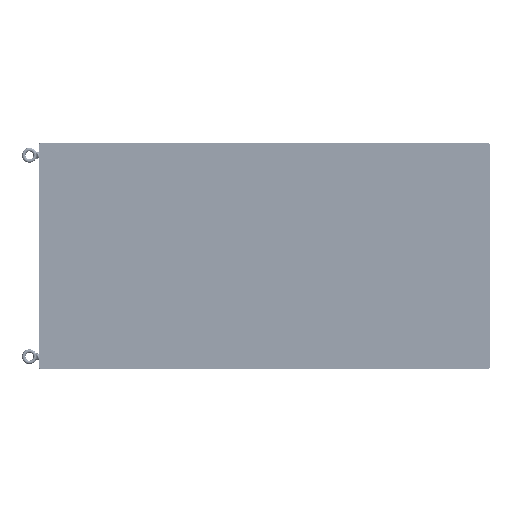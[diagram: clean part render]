
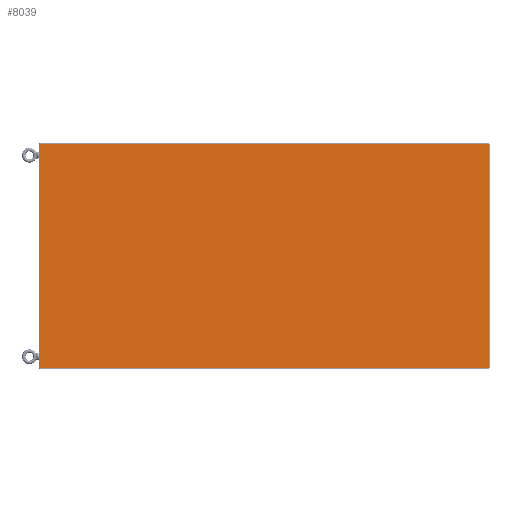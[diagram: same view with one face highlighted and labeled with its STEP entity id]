
A CAD part, front view. The second image highlights one B-rep face of the part: STEP entity #8039.
In plain terms, the highlighted planar face has unit normal (0, -1, 0).
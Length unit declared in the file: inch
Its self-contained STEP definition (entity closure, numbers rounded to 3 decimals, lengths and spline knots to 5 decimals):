
#7808=CARTESIAN_POINT('',(-39.251,0.,-19.566));
#7809=DIRECTION('',(0.,-1.,0.));
#7810=DIRECTION('',(-1.,0.,0.));
#7811=AXIS2_PLACEMENT_3D('',#7808,#7809,#7810);
#7816=DIRECTION('',(0.,0.,-1.));
#7817=VECTOR('',#7816,39.132);
#7818=CARTESIAN_POINT('',(-39.266,0.,19.566));
#7819=LINE('',#7818,#7817);
#7823=CARTESIAN_POINT('',(-39.251,0.,19.566));
#7824=DIRECTION('',(0.,-1.,0.));
#7825=DIRECTION('',(0.,0.,1.));
#7826=AXIS2_PLACEMENT_3D('',#7823,#7824,#7825);
#7831=CARTESIAN_POINT('',(39.251,0.,19.566));
#7832=DIRECTION('',(0.,-1.,0.));
#7833=DIRECTION('',(1.,0.,0.));
#7834=AXIS2_PLACEMENT_3D('',#7831,#7832,#7833);
#7839=CARTESIAN_POINT('',(39.251,0.,-19.566));
#7840=DIRECTION('',(0.,-1.,0.));
#7841=DIRECTION('',(0.,0.,-1.));
#7842=AXIS2_PLACEMENT_3D('',#7839,#7840,#7841);
#7854=DIRECTION('',(1.,0.,0.));
#7855=VECTOR('',#7854,78.502);
#7856=CARTESIAN_POINT('',(-39.251,0.,-19.581));
#7857=LINE('',#7856,#7855);
#7896=DIRECTION('',(0.,0.,-1.));
#7897=VECTOR('',#7896,39.132);
#7898=CARTESIAN_POINT('',(39.266,0.,19.566));
#7899=LINE('',#7898,#7897);
#7924=DIRECTION('',(1.,0.,0.));
#7925=VECTOR('',#7924,78.502);
#7926=CARTESIAN_POINT('',(-39.251,0.,19.581));
#7927=LINE('',#7926,#7925);
#7984=CARTESIAN_POINT('',(-39.266,0.,-19.566));
#7985=CARTESIAN_POINT('',(-39.251,0.,-19.581));
#7986=VERTEX_POINT('',#7984);
#7987=VERTEX_POINT('',#7985);
#7992=CARTESIAN_POINT('',(-39.251,0.,19.581));
#7993=CARTESIAN_POINT('',(-39.266,0.,19.566));
#7994=VERTEX_POINT('',#7992);
#7995=VERTEX_POINT('',#7993);
#8000=CARTESIAN_POINT('',(39.266,0.,19.566));
#8001=CARTESIAN_POINT('',(39.251,0.,19.581));
#8002=VERTEX_POINT('',#8000);
#8003=VERTEX_POINT('',#8001);
#8008=CARTESIAN_POINT('',(39.251,0.,-19.581));
#8009=CARTESIAN_POINT('',(39.266,0.,-19.566));
#8010=VERTEX_POINT('',#8008);
#8011=VERTEX_POINT('',#8009);
#8016=CARTESIAN_POINT('',(-39.266,0.,19.581));
#8017=DIRECTION('',(0.,-1.,0.));
#8018=DIRECTION('',(1.,0.,0.));
#8019=AXIS2_PLACEMENT_3D('',#8016,#8017,#8018);
#8020=PLANE('',#8019);
#8022=ORIENTED_EDGE('',*,*,#8021,.F.);
#8024=ORIENTED_EDGE('',*,*,#8023,.F.);
#8026=ORIENTED_EDGE('',*,*,#8025,.F.);
#8028=ORIENTED_EDGE('',*,*,#8027,.T.);
#8030=ORIENTED_EDGE('',*,*,#8029,.F.);
#8032=ORIENTED_EDGE('',*,*,#8031,.T.);
#8034=ORIENTED_EDGE('',*,*,#8033,.F.);
#8036=ORIENTED_EDGE('',*,*,#8035,.F.);
#8037=EDGE_LOOP('',(#8022,#8024,#8026,#8028,#8030,#8032,#8034,#8036));
#8038=FACE_OUTER_BOUND('',#8037,.F.);
#7812=CIRCLE('',#7811,0.015);
#7827=CIRCLE('',#7826,0.015);
#7835=CIRCLE('',#7834,0.015);
#7843=CIRCLE('',#7842,0.015);
#8021=EDGE_CURVE('',#7986,#7987,#7812,.T.);
#8023=EDGE_CURVE('',#7995,#7986,#7819,.T.);
#8025=EDGE_CURVE('',#7994,#7995,#7827,.T.);
#8027=EDGE_CURVE('',#7994,#8003,#7927,.T.);
#8029=EDGE_CURVE('',#8002,#8003,#7835,.T.);
#8031=EDGE_CURVE('',#8002,#8011,#7899,.T.);
#8033=EDGE_CURVE('',#8010,#8011,#7843,.T.);
#8035=EDGE_CURVE('',#7987,#8010,#7857,.T.);
#8039=ADVANCED_FACE('',(#8038),#8020,.T.);
